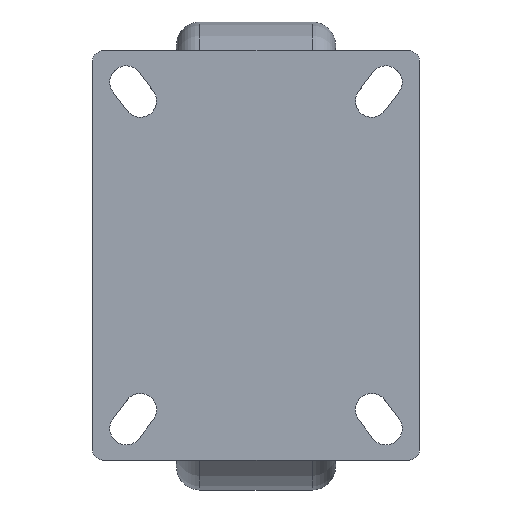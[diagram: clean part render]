
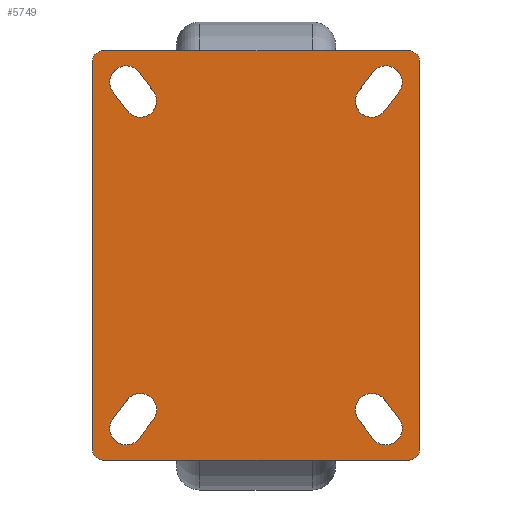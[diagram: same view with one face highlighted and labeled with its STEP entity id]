
A CAD part, top view. The second image highlights one B-rep face of the part: STEP entity #5749.
In plain terms, the highlighted planar face has unit normal (0, 0, 1).
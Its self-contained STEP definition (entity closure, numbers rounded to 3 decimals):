
#4742=CARTESIAN_POINT('',(55.753,388.199,18.));
#4743=VERTEX_POINT('',#4742);
#4750=CARTESIAN_POINT('',(66.953,396.599,18.));
#4751=VERTEX_POINT('',#4750);
#4752=CARTESIAN_POINT('',(61.353,392.399,18.));
#4753=DIRECTION('',(0.0,0.0,1.0));
#4754=DIRECTION('',(1.0,0.0,0.0));
#4755=AXIS2_PLACEMENT_3D('',#4752,#4753,#4754);
#4756=CIRCLE('',#4755,7.);
#4757=EDGE_CURVE('',#4743,#4751,#4756,.T.);
#4773=CARTESIAN_POINT('',(60.953,404.599,18.));
#4774=VERTEX_POINT('',#4773);
#4775=CARTESIAN_POINT('',(49.753,396.199,18.));
#4776=VERTEX_POINT('',#4775);
#4777=CARTESIAN_POINT('',(55.353,400.399,18.));
#4778=DIRECTION('',(0.0,0.0,1.0));
#4779=DIRECTION('',(1.0,0.0,0.0));
#4780=AXIS2_PLACEMENT_3D('',#4777,#4778,#4779);
#4781=CIRCLE('',#4780,7.);
#4782=EDGE_CURVE('',#4774,#4776,#4781,.T.);
#4815=CARTESIAN_POINT('',(154.753,396.599,18.));
#4816=VERTEX_POINT('',#4815);
#4817=CARTESIAN_POINT('',(165.953,388.199,18.));
#4818=VERTEX_POINT('',#4817);
#4819=CARTESIAN_POINT('',(160.353,392.399,18.));
#4820=DIRECTION('',(0.0,0.0,1.0));
#4821=DIRECTION('',(1.0,0.0,0.0));
#4822=AXIS2_PLACEMENT_3D('',#4819,#4820,#4821);
#4823=CIRCLE('',#4822,7.);
#4824=EDGE_CURVE('',#4816,#4818,#4823,.T.);
#4868=CARTESIAN_POINT('',(171.953,396.199,18.));
#4869=VERTEX_POINT('',#4868);
#4876=CARTESIAN_POINT('',(160.753,404.599,18.));
#4877=VERTEX_POINT('',#4876);
#4878=CARTESIAN_POINT('',(166.353,400.399,18.));
#4879=DIRECTION('',(0.0,0.0,1.0));
#4880=DIRECTION('',(1.0,0.0,0.0));
#4881=AXIS2_PLACEMENT_3D('',#4878,#4879,#4880);
#4882=CIRCLE('',#4881,7.);
#4883=EDGE_CURVE('',#4869,#4877,#4882,.T.);
#4899=CARTESIAN_POINT('',(165.953,264.599,18.));
#4900=VERTEX_POINT('',#4899);
#4901=CARTESIAN_POINT('',(154.753,256.199,18.));
#4902=VERTEX_POINT('',#4901);
#4903=CARTESIAN_POINT('',(160.353,260.399,18.));
#4904=DIRECTION('',(0.0,0.0,1.0));
#4905=DIRECTION('',(1.0,0.0,0.0));
#4906=AXIS2_PLACEMENT_3D('',#4903,#4904,#4905);
#4907=CIRCLE('',#4906,7.);
#4908=EDGE_CURVE('',#4900,#4902,#4907,.T.);
#4952=CARTESIAN_POINT('',(160.753,248.199,18.));
#4953=VERTEX_POINT('',#4952);
#4960=CARTESIAN_POINT('',(171.953,256.599,18.));
#4961=VERTEX_POINT('',#4960);
#4962=CARTESIAN_POINT('',(166.353,252.399,18.));
#4963=DIRECTION('',(0.0,0.0,1.0));
#4964=DIRECTION('',(1.0,0.0,0.0));
#4965=AXIS2_PLACEMENT_3D('',#4962,#4963,#4964);
#4966=CIRCLE('',#4965,7.);
#4967=EDGE_CURVE('',#4953,#4961,#4966,.T.);
#4994=CARTESIAN_POINT('',(66.953,256.199,18.));
#4995=VERTEX_POINT('',#4994);
#5002=CARTESIAN_POINT('',(55.753,264.599,18.));
#5003=VERTEX_POINT('',#5002);
#5004=CARTESIAN_POINT('',(61.353,260.399,18.));
#5005=DIRECTION('',(0.0,0.0,1.0));
#5006=DIRECTION('',(1.0,0.0,0.0));
#5007=AXIS2_PLACEMENT_3D('',#5004,#5005,#5006);
#5008=CIRCLE('',#5007,7.);
#5009=EDGE_CURVE('',#4995,#5003,#5008,.T.);
#5025=CARTESIAN_POINT('',(49.753,256.599,18.));
#5026=VERTEX_POINT('',#5025);
#5027=CARTESIAN_POINT('',(60.953,248.199,18.));
#5028=VERTEX_POINT('',#5027);
#5029=CARTESIAN_POINT('',(55.353,252.399,18.));
#5030=DIRECTION('',(0.0,0.0,1.0));
#5031=DIRECTION('',(1.0,0.0,0.0));
#5032=AXIS2_PLACEMENT_3D('',#5029,#5030,#5031);
#5033=CIRCLE('',#5032,7.);
#5034=EDGE_CURVE('',#5026,#5028,#5033,.T.);
#5212=CARTESIAN_POINT('',(175.853,238.899,18.));
#5213=VERTEX_POINT('',#5212);
#5214=CARTESIAN_POINT('',(45.853,238.899,18.));
#5215=VERTEX_POINT('',#5214);
#5216=CARTESIAN_POINT('',(175.853,238.899,18.));
#5217=DIRECTION('',(-1.0,0.0,0.0));
#5218=VECTOR('',#5217,130.);
#5219=LINE('',#5216,#5218);
#5220=EDGE_CURVE('',#5213,#5215,#5219,.T.);
#5252=CARTESIAN_POINT('',(40.853,243.899,18.));
#5253=VERTEX_POINT('',#5252);
#5254=CARTESIAN_POINT('',(45.853,243.899,18.));
#5255=DIRECTION('',(0.0,0.0,-1.0));
#5256=DIRECTION('',(1.0,0.0,0.0));
#5257=AXIS2_PLACEMENT_3D('',#5254,#5255,#5256);
#5258=CIRCLE('',#5257,5.0);
#5259=EDGE_CURVE('',#5215,#5253,#5258,.T.);
#5285=CARTESIAN_POINT('',(40.853,408.899,18.));
#5286=VERTEX_POINT('',#5285);
#5287=CARTESIAN_POINT('',(40.853,243.899,18.));
#5288=DIRECTION('',(0.0,1.0,0.0));
#5289=VECTOR('',#5288,165.0);
#5290=LINE('',#5287,#5289);
#5291=EDGE_CURVE('',#5253,#5286,#5290,.T.);
#5316=CARTESIAN_POINT('',(45.853,413.899,18.));
#5317=VERTEX_POINT('',#5316);
#5318=CARTESIAN_POINT('',(45.853,408.899,18.));
#5319=DIRECTION('',(0.0,0.0,-1.0));
#5320=DIRECTION('',(1.0,0.0,0.0));
#5321=AXIS2_PLACEMENT_3D('',#5318,#5319,#5320);
#5322=CIRCLE('',#5321,5.0);
#5323=EDGE_CURVE('',#5286,#5317,#5322,.T.);
#5349=CARTESIAN_POINT('',(175.853,413.899,18.));
#5350=VERTEX_POINT('',#5349);
#5351=CARTESIAN_POINT('',(45.853,413.899,18.));
#5352=DIRECTION('',(1.0,0.0,0.0));
#5353=VECTOR('',#5352,130.0);
#5354=LINE('',#5351,#5353);
#5355=EDGE_CURVE('',#5317,#5350,#5354,.T.);
#5380=CARTESIAN_POINT('',(180.853,408.899,18.));
#5381=VERTEX_POINT('',#5380);
#5382=CARTESIAN_POINT('',(175.853,408.899,18.));
#5383=DIRECTION('',(0.0,0.0,-1.0));
#5384=DIRECTION('',(1.0,0.0,0.0));
#5385=AXIS2_PLACEMENT_3D('',#5382,#5383,#5384);
#5386=CIRCLE('',#5385,5.0);
#5387=EDGE_CURVE('',#5350,#5381,#5386,.T.);
#5413=CARTESIAN_POINT('',(180.853,243.899,18.));
#5414=VERTEX_POINT('',#5413);
#5415=CARTESIAN_POINT('',(180.853,408.899,18.));
#5416=DIRECTION('',(0.0,-1.0,0.0));
#5417=VECTOR('',#5416,165.0);
#5418=LINE('',#5415,#5417);
#5419=EDGE_CURVE('',#5381,#5414,#5418,.T.);
#5444=CARTESIAN_POINT('',(175.853,243.899,18.));
#5445=DIRECTION('',(0.0,0.0,-1.0));
#5446=DIRECTION('',(1.0,0.0,0.0));
#5447=AXIS2_PLACEMENT_3D('',#5444,#5445,#5446);
#5448=CIRCLE('',#5447,5.0);
#5449=EDGE_CURVE('',#5414,#5213,#5448,.T.);
#5468=CARTESIAN_POINT('',(60.953,248.199,18.));
#5469=DIRECTION('',(0.6,0.8,0.0));
#5470=VECTOR('',#5469,10.);
#5471=LINE('',#5468,#5470);
#5472=EDGE_CURVE('',#5028,#4995,#5471,.T.);
#5490=CARTESIAN_POINT('',(55.753,264.599,18.));
#5491=DIRECTION('',(-0.6,-0.8,0.0));
#5492=VECTOR('',#5491,10.);
#5493=LINE('',#5490,#5492);
#5494=EDGE_CURVE('',#5003,#5026,#5493,.T.);
#5512=CARTESIAN_POINT('',(171.953,256.599,18.));
#5513=DIRECTION('',(-0.6,0.8,0.0));
#5514=VECTOR('',#5513,10.0);
#5515=LINE('',#5512,#5514);
#5516=EDGE_CURVE('',#4961,#4900,#5515,.T.);
#5534=CARTESIAN_POINT('',(154.753,256.199,18.));
#5535=DIRECTION('',(0.6,-0.8,0.0));
#5536=VECTOR('',#5535,10.);
#5537=LINE('',#5534,#5536);
#5538=EDGE_CURVE('',#4902,#4953,#5537,.T.);
#5556=CARTESIAN_POINT('',(165.953,388.199,18.));
#5557=DIRECTION('',(0.6,0.8,0.0));
#5558=VECTOR('',#5557,10.);
#5559=LINE('',#5556,#5558);
#5560=EDGE_CURVE('',#4818,#4869,#5559,.T.);
#5578=CARTESIAN_POINT('',(160.753,404.599,18.));
#5579=DIRECTION('',(-0.6,-0.8,0.0));
#5580=VECTOR('',#5579,10.0);
#5581=LINE('',#5578,#5580);
#5582=EDGE_CURVE('',#4877,#4816,#5581,.T.);
#5600=CARTESIAN_POINT('',(49.753,396.199,18.));
#5601=DIRECTION('',(0.6,-0.8,0.0));
#5602=VECTOR('',#5601,10.);
#5603=LINE('',#5600,#5602);
#5604=EDGE_CURVE('',#4776,#4743,#5603,.T.);
#5622=CARTESIAN_POINT('',(66.953,396.599,18.));
#5623=DIRECTION('',(-0.6,0.8,0.0));
#5624=VECTOR('',#5623,10.);
#5625=LINE('',#5622,#5624);
#5626=EDGE_CURVE('',#4751,#4774,#5625,.T.);
#5710=CARTESIAN_POINT('',(110.853,326.399,18.));
#5711=DIRECTION('',(0.0,0.0,1.0));
#5712=DIRECTION('',(1.0,0.0,0.0));
#5713=AXIS2_PLACEMENT_3D('',#5710,#5711,#5712);
#5714=PLANE('',#5713);
#5715=ORIENTED_EDGE('',*,*,#5220,.F.);
#5716=ORIENTED_EDGE('',*,*,#5449,.F.);
#5717=ORIENTED_EDGE('',*,*,#5419,.F.);
#5718=ORIENTED_EDGE('',*,*,#5387,.F.);
#5719=ORIENTED_EDGE('',*,*,#5355,.F.);
#5720=ORIENTED_EDGE('',*,*,#5323,.F.);
#5721=ORIENTED_EDGE('',*,*,#5291,.F.);
#5722=ORIENTED_EDGE('',*,*,#5259,.F.);
#5723=EDGE_LOOP('',(#5715,#5716,#5717,#5718,#5719,#5720,#5721,#5722));
#5724=FACE_OUTER_BOUND('',#5723,.T.);
#5725=ORIENTED_EDGE('',*,*,#4782,.F.);
#5726=ORIENTED_EDGE('',*,*,#5626,.F.);
#5727=ORIENTED_EDGE('',*,*,#4757,.F.);
#5728=ORIENTED_EDGE('',*,*,#5604,.F.);
#5729=EDGE_LOOP('',(#5725,#5726,#5727,#5728));
#5730=FACE_BOUND('',#5729,.T.);
#5731=ORIENTED_EDGE('',*,*,#5560,.F.);
#5732=ORIENTED_EDGE('',*,*,#4824,.F.);
#5733=ORIENTED_EDGE('',*,*,#5582,.F.);
#5734=ORIENTED_EDGE('',*,*,#4883,.F.);
#5735=EDGE_LOOP('',(#5731,#5732,#5733,#5734));
#5736=FACE_BOUND('',#5735,.T.);
#5737=ORIENTED_EDGE('',*,*,#4967,.F.);
#5738=ORIENTED_EDGE('',*,*,#5538,.F.);
#5739=ORIENTED_EDGE('',*,*,#4908,.F.);
#5740=ORIENTED_EDGE('',*,*,#5516,.F.);
#5741=EDGE_LOOP('',(#5737,#5738,#5739,#5740));
#5742=FACE_BOUND('',#5741,.T.);
#5743=ORIENTED_EDGE('',*,*,#5034,.F.);
#5744=ORIENTED_EDGE('',*,*,#5494,.F.);
#5745=ORIENTED_EDGE('',*,*,#5009,.F.);
#5746=ORIENTED_EDGE('',*,*,#5472,.F.);
#5747=EDGE_LOOP('',(#5743,#5744,#5745,#5746));
#5748=FACE_BOUND('',#5747,.T.);
#5749=ADVANCED_FACE('',(#5724,#5730,#5736,#5742,#5748),#5714,.T.);
